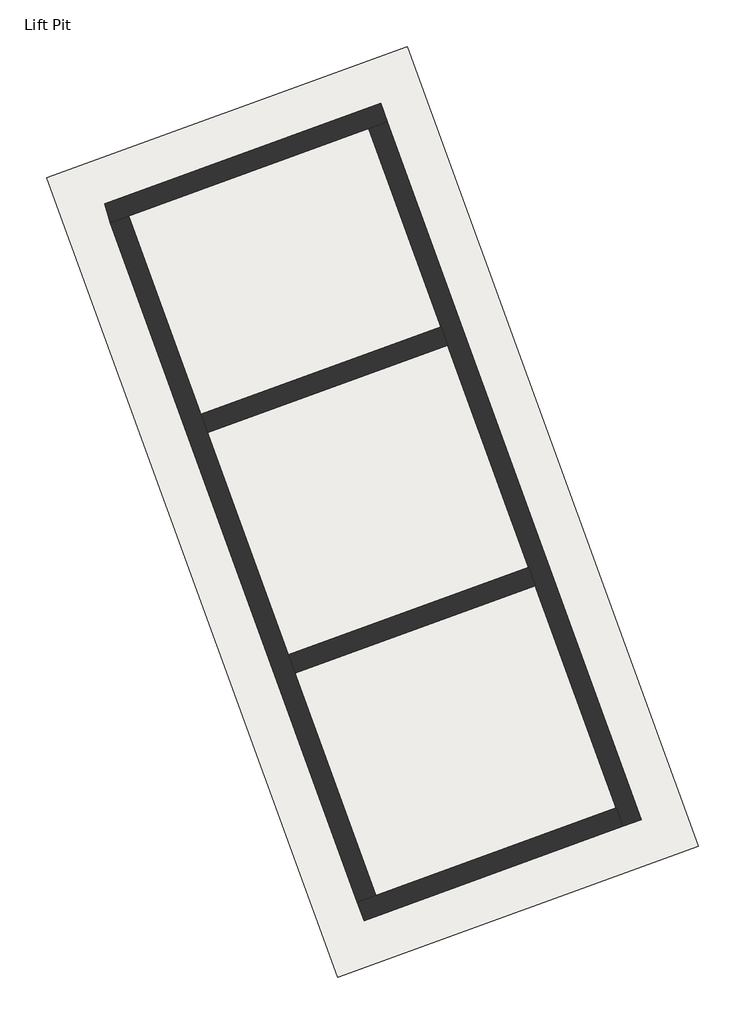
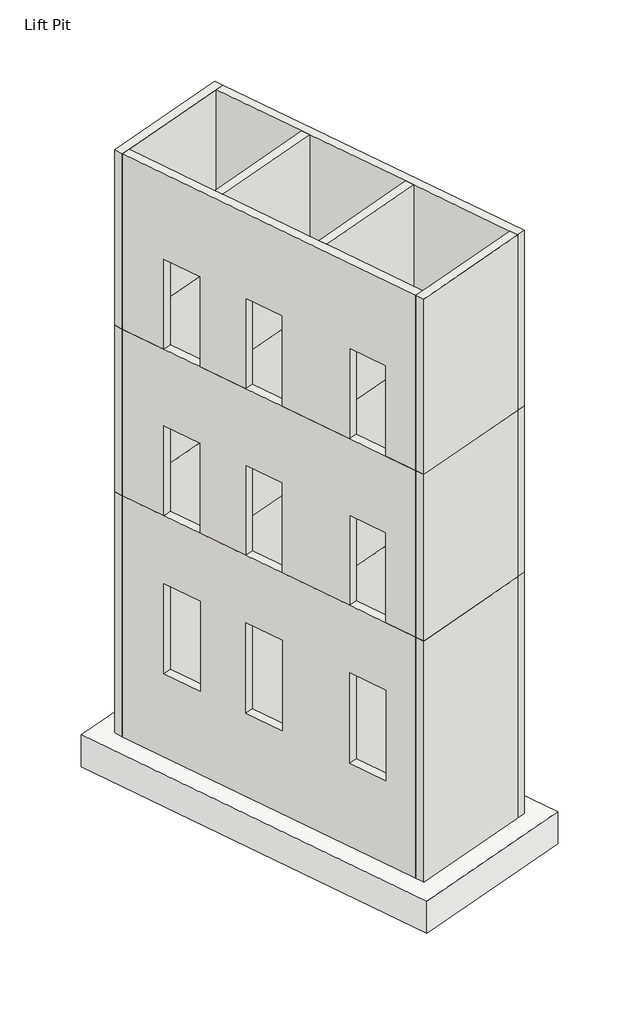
# One storey: 6 walls, 1 slab.
"""IFC4 building model written with IfcOpenShell, lengths in millimetres."""

from ifc_helpers import new_model, si_unit, frame, origin, place, context, project, spatial, polyline, outline, extrude, faceted_brep, element, save

model = new_model("IFC4")

# Units and contexts
model_context = context("Model", 3, world=origin())
ifc_project = project(units=[si_unit("LENGTHUNIT", "METRE", prefix="MILLI")], contexts=[model_context])

# Site, building, storey
site = spatial("IfcSite", under=ifc_project)
building = spatial("IfcBuilding", under=site)
storey = spatial("IfcBuildingStorey", under=building, Name="Lift Pit", Elevation=-1950.0)

# Slab
placement = place(None, origin())
element("IfcSlab", 1, ObjectType="750 RC SLAB", at=placement, inside=storey, context=model_context, shape_type="SweptSolid", body=[
    extrude(outline(polyline([(38224.7247183, 10390.2706294), (41182.0702914, 2265.0304453), (37517.2690702, 931.1518864), (34559.9234972, 9056.3920706), (38224.7247183, 10390.2706294)])), frame((0.0, 0.0, -2700.0), z_axis=(0.0, 0.0, 1.0), x_axis=(1.0, 0.0, 0.0)), (0.0, 0.0, 1.0), 750.0),
])

# Walls
element("IfcWall", 2, ObjectType="RC WALL 200", at=placement, inside=storey, context=model_context, shape_type="SolidModel", body=[
    faceted_brep([(38024.1761321, 9625.5613614, 7595.0), (35205.0982701, 8599.5009317, 7595.0), (35153.1367317, 8793.4240329, 7595.0), (37955.7721034, 9813.4998856, 7595.0), (38024.1761321, 9625.5613614, 11700.0), (37836.2376079, 9557.1573328, 11700.0), (35393.0367939, 8667.9049602, 11700.0), (35205.0982701, 8599.5009317, 11700.0), (37955.7721034, 9813.4998856, 11700.0), (35153.1367317, 8793.4240329, 11700.0)], [[[0, 1, 2, 3]], [[0, 4, 5, 6, 7, 1]], [[3, 8, 4, 0]], [[5, 4, 8, 9, 7, 6]], [[1, 7, 9, 2]], [[2, 9, 8, 3]]]),
    faceted_brep([(35205.0982701, 8599.5009317, 3695.0), (38024.1761321, 9625.5613614, 3695.0), (37955.7721034, 9813.4998856, 3695.0), (35153.1367317, 8793.4240329, 3695.0), (35205.0982701, 8599.5009317, -1950.0), (35393.0367939, 8667.9049602, -1950.0), (37836.2376079, 9557.1573328, -1950.0), (38024.1761321, 9625.5613614, -1950.0), (38024.1761321, 9625.5613614, -450.0), (35205.0982701, 8599.5009317, -450.0), (35153.1367317, 8793.4240329, -1950.0), (37955.7721034, 9813.4998856, -1950.0), (37955.7721034, 9813.4998856, -450.0), (35153.1367317, 8793.4240329, -450.0)], [[[0, 1, 2, 3]], [[4, 5, 6, 7, 8, 1, 0, 9]], [[5, 4, 10, 11, 7, 6]], [[8, 7, 11, 12, 2, 1]], [[4, 9, 0, 3, 13, 10]], [[10, 13, 3, 2, 12, 11]]]),
    extrude(outline(polyline([(38024.1761321, 9625.5613614), (35205.0982701, 8599.5009317), (35153.1367317, 8793.4240329), (37955.7721034, 9813.4998856), (38024.1761321, 9625.5613614)])), frame((0.0, 0.0, 3695.0), z_axis=(0.0, 0.0, 1.0), x_axis=(1.0, 0.0, 0.0)), (0.0, 0.0, 1.0), 3900.0),
])
element("IfcWall", 3, ObjectType="RC WALL 200", at=placement, inside=storey, context=model_context, shape_type="SolidModel", body=[
    faceted_brep([(40417.3610234, 2465.5790315, 7595.0), (37836.2376079, 9557.1573328, 7595.0), (38024.1761321, 9625.5613614, 7595.0), (40605.2995475, 2533.9830601, 7595.0), (40417.3610234, 2465.5790315, 11700.0), (40348.9569947, 2653.5175556, 11700.0), (39527.6685354, 4909.9890526, 11700.0), (39459.2645067, 5097.9275768, 11700.0), (38638.4161628, 7353.1898667, 11700.0), (38570.0121342, 7541.1283909, 11700.0), (37836.2376079, 9557.1573328, 11700.0), (40605.2995475, 2533.9830601, 11700.0), (38024.1761321, 9625.5613614, 11700.0)], [[[0, 1, 2, 3]], [[0, 4, 5, 6, 7, 8, 9, 10, 1]], [[4, 0, 3, 11]], [[5, 4, 11, 12, 10, 9, 8, 7, 6]], [[1, 10, 12, 2]], [[2, 12, 11, 3]]]),
    faceted_brep([(37836.2376079, 9557.1573328, 3695.0), (40417.3610234, 2465.5790315, 3695.0), (40605.2995475, 2533.9830601, 3695.0), (38024.1761321, 9625.5613614, 3695.0), (37836.2376079, 9557.1573328, -1950.0), (38570.0121342, 7541.1283909, -1950.0), (38638.4161628, 7353.1898667, -1950.0), (39459.2645067, 5097.9275768, -1950.0), (39527.6685354, 4909.9890526, -1950.0), (40348.9569947, 2653.5175556, -1950.0), (40417.3610234, 2465.5790315, -1950.0), (38024.1761321, 9625.5613614, -1950.0), (40605.2995475, 2533.9830601, -1950.0)], [[[0, 1, 2, 3]], [[4, 5, 6, 7, 8, 9, 10, 1, 0]], [[5, 4, 11, 12, 10, 9, 8, 7, 6]], [[1, 10, 12, 2]], [[4, 0, 3, 11]], [[11, 3, 2, 12]]]),
    extrude(outline(polyline([(40417.3610234, 2465.5790315), (37836.2376079, 9557.1573328), (38024.1761321, 9625.5613614), (40605.2995475, 2533.9830601), (40417.3610234, 2465.5790315)])), frame((0.0, 0.0, 3695.0), z_axis=(0.0, 0.0, 1.0), x_axis=(1.0, 0.0, 0.0)), (0.0, 0.0, 1.0), 3900.0),
])
element("IfcWall", 4, ObjectType="RC WALL 200", at=placement, inside=storey, context=model_context, shape_type="SolidModel", body=[
    faceted_brep([(37717.8176565, 1695.8611544, 7595.0), (40348.9569947, 2653.5175556, 7595.0), (40417.3610234, 2465.5790315, 7595.0), (37786.2216851, 1507.9226302, 7595.0), (37717.8176565, 1695.8611544, 11700.0), (37905.7561806, 1764.2651831, 11700.0), (40348.9569947, 2653.5175556, 11700.0), (37786.2216851, 1507.9226302, 11700.0), (40417.3610234, 2465.5790315, 11700.0)], [[[0, 1, 2, 3]], [[0, 4, 5, 6, 1]], [[4, 0, 3, 7]], [[5, 4, 7, 8, 6]], [[1, 6, 8, 2]], [[2, 8, 7, 3]]]),
    faceted_brep([(40348.9569947, 2653.5175556, 3695.0), (37717.8176565, 1695.8611544, 3695.0), (37786.2216851, 1507.9226302, 3695.0), (40417.3610234, 2465.5790315, 3695.0), (40348.9569947, 2653.5175556, -1950.0), (37905.7561806, 1764.2651831, -1950.0), (37717.8176565, 1695.8611544, -1950.0), (40417.3610234, 2465.5790315, -1950.0), (37786.2216851, 1507.9226302, -1950.0)], [[[0, 1, 2, 3]], [[4, 5, 6, 1, 0]], [[5, 4, 7, 8, 6]], [[1, 6, 8, 2]], [[4, 0, 3, 7]], [[7, 3, 2, 8]]]),
    extrude(outline(polyline([(37717.8176565, 1695.8611544), (40348.9569947, 2653.5175556), (40417.3610234, 2465.5790315), (37786.2216851, 1507.9226302), (37717.8176565, 1695.8611544)])), frame((0.0, 0.0, 3695.0), z_axis=(0.0, 0.0, 1.0), x_axis=(1.0, 0.0, 0.0)), (0.0, 0.0, 1.0), 3900.0),
])
element("IfcWall", 5, ObjectType="RC WALL 200", at=placement, inside=storey, context=model_context, shape_type="Brep", body=[
    faceted_brep([(37648.4224802, 2471.2837143, 7595.0), (37905.7561806, 1764.2651831, 7595.0), (37717.8176565, 1695.8611544, 7595.0), (37460.483956, 2402.8796856, 7595.0), (36058.4072915, 6839.8145422, 7595.0), (36448.3102548, 5768.5649548, 7595.0), (36260.3717306, 5700.1609261, 7595.0), (35870.4687673, 6771.4105136, 7595.0), (35393.0367939, 8667.9049602, 7595.0), (35747.1689611, 7694.9348271, 7595.0), (35559.2304369, 7626.5307985, 7595.0), (35205.0982697, 8599.5009315, 7595.0), (36759.5485852, 4913.4446698, 7595.0), (37337.1841498, 3326.4039992, 7595.0), (37149.2456256, 3257.9999705, 7595.0), (36571.610061, 4845.0406412, 7595.0), (35393.0367939, 8667.9049602, 11700.0), (36126.8113201, 6651.8760183, 11700.0), (36195.2153487, 6463.9374941, 11700.0), (37016.0636927, 4208.6752042, 11700.0), (37084.4677213, 4020.73668, 11700.0), (37905.7561806, 1764.2651831, 11700.0), (37648.4224802, 2471.2837143, 9705.0), (37337.1841498, 3326.4039992, 9705.0), (36759.5485852, 4913.4446698, 9705.0), (36448.3102548, 5768.5649548, 9705.0), (36058.4072915, 6839.8145422, 9705.0), (35747.1689611, 7694.9348271, 9705.0), (35205.0982697, 8599.5009315, 11700.0), (37717.8176565, 1695.8611544, 11700.0), (37460.483956, 2402.8796856, 9705.0), (37149.2456256, 3257.9999705, 9705.0), (36571.610061, 4845.0406412, 9705.0), (36260.3717306, 5700.1609261, 9705.0), (35870.4687673, 6771.4105136, 9705.0), (35559.2304369, 7626.5307985, 9705.0)], [[[0, 1, 2, 3]], [[4, 5, 6, 7]], [[8, 9, 10, 11]], [[12, 13, 14, 15]], [[8, 16, 17, 18, 19, 20, 21, 1, 0, 22, 23, 13, 12, 24, 25, 5, 4, 26, 27, 9]], [[11, 28, 16, 8]], [[17, 16, 28, 29, 21, 20, 19, 18]], [[1, 21, 29, 2]], [[23, 22, 30, 31]], [[13, 23, 31, 14]], [[22, 0, 3, 30]], [[25, 24, 32, 33]], [[5, 25, 33, 6]], [[24, 12, 15, 32]], [[27, 26, 34, 35]], [[9, 27, 35, 10]], [[26, 4, 7, 34]], [[2, 29, 28, 11, 10, 35, 34, 7, 6, 33, 32, 15, 14, 31, 30, 3]]]),
    faceted_brep([(37905.7561806, 1764.2651831, 3695.0), (37648.4224802, 2471.2837143, 3695.0), (37337.1841498, 3326.4039992, 3695.0), (36759.5485852, 4913.4446698, 3695.0), (36448.3102548, 5768.5649548, 3695.0), (36058.4072915, 6839.8145422, 3695.0), (35747.1689611, 7694.9348271, 3695.0), (35393.0367939, 8667.9049602, 3695.0), (35205.0982697, 8599.5009315, 3695.0), (35559.2304369, 7626.5307985, 3695.0), (35870.4687673, 6771.4105136, 3695.0), (36260.3717306, 5700.1609261, 3695.0), (36571.610061, 4845.0406412, 3695.0), (37149.2456256, 3257.9999705, 3695.0), (37460.483956, 2402.8796856, 3695.0), (37717.8176565, 1695.8611544, 3695.0), (37905.7561806, 1764.2651831, -1950.0), (37084.4677213, 4020.73668, -1950.0), (37016.0636927, 4208.6752042, -1950.0), (36195.2153487, 6463.9374941, -1950.0), (36126.8113201, 6651.8760183, -1950.0), (35393.0367939, 8667.9049602, -1950.0), (35393.0367939, 8667.9049602, -450.0), (37905.7561806, 1764.2651831, -450.0), (36058.4072915, 6839.8145422, 2110.0), (35747.1689611, 7694.9348271, 2110.0), (35747.1689611, 7694.9348271, 0.0), (36058.4072915, 6839.8145422, 0.0), (36759.5485852, 4913.4446698, 2110.0), (36448.3102548, 5768.5649548, 2110.0), (36448.3102548, 5768.5649548, 0.0), (36759.5485852, 4913.4446698, 0.0), (37648.4224802, 2471.2837143, 2110.0), (37337.1841498, 3326.4039992, 2110.0), (37337.1841498, 3326.4039992, 0.0), (37648.4224802, 2471.2837143, 0.0), (35870.4687673, 6771.4105136, 2110.0), (35559.2304369, 7626.5307985, 2110.0), (35559.2304369, 7626.5307985, 0.0), (35870.4687673, 6771.4105136, 0.0), (36571.610061, 4845.0406412, 2110.0), (36260.3717306, 5700.1609261, 2110.0), (36260.3717306, 5700.1609261, 0.0), (36571.610061, 4845.0406412, 0.0), (37460.483956, 2402.8796856, 2110.0), (37149.2456256, 3257.9999705, 2110.0), (37149.2456256, 3257.9999705, 0.0), (37460.483956, 2402.8796856, 0.0), (37717.8176565, 1695.8611544, -1950.0), (35205.0982697, 8599.5009315, -1950.0), (35205.0982697, 8599.5009315, -450.0), (37717.8176565, 1695.8611544, -450.0)], [[[0, 1, 2, 3, 4, 5, 6, 7, 8, 9, 10, 11, 12, 13, 14, 15]], [[16, 17, 18, 19, 20, 21, 22, 7, 6, 5, 4, 3, 2, 1, 0, 23], [24, 25, 26, 27], [28, 29, 30, 31], [32, 33, 34, 35]], [[25, 24, 36, 37]], [[26, 25, 37, 38]], [[27, 26, 38, 39]], [[24, 27, 39, 36]], [[29, 28, 40, 41]], [[30, 29, 41, 42]], [[31, 30, 42, 43]], [[28, 31, 43, 40]], [[33, 32, 44, 45]], [[34, 33, 45, 46]], [[35, 34, 46, 47]], [[32, 35, 47, 44]], [[17, 16, 48, 49, 21, 20, 19, 18]], [[22, 21, 49, 50, 8, 7]], [[16, 23, 0, 15, 51, 48]], [[48, 51, 15, 14, 13, 12, 11, 10, 9, 8, 50, 49], [37, 36, 39, 38], [41, 40, 43, 42], [45, 44, 47, 46]]]),
    faceted_brep([(37905.7561806, 1764.2651831, 7595.0), (37648.4224802, 2471.2837143, 7595.0), (37337.1841498, 3326.4039992, 7595.0), (36759.5485852, 4913.4446698, 7595.0), (36448.3102548, 5768.5649548, 7595.0), (36058.4072915, 6839.8145422, 7595.0), (35747.1689611, 7694.9348271, 7595.0), (35393.0367939, 8667.9049602, 7595.0), (35205.0982697, 8599.5009315, 7595.0), (35559.2304369, 7626.5307985, 7595.0), (35870.4687673, 6771.4105136, 7595.0), (36260.3717306, 5700.1609261, 7595.0), (36571.610061, 4845.0406412, 7595.0), (37149.2456256, 3257.9999705, 7595.0), (37460.483956, 2402.8796856, 7595.0), (37717.8176565, 1695.8611544, 7595.0), (37648.4224802, 2471.2837143, 3695.0), (37905.7561806, 1764.2651831, 3695.0), (37717.8176565, 1695.8611544, 3695.0), (37460.483956, 2402.8796856, 3695.0), (36759.5485852, 4913.4446698, 3695.0), (37337.1841498, 3326.4039992, 3695.0), (37149.2456256, 3257.9999705, 3695.0), (36571.610061, 4845.0406412, 3695.0), (35393.0367939, 8667.9049602, 3695.0), (35747.1689611, 7694.9348271, 3695.0), (35559.2304369, 7626.5307985, 3695.0), (35205.0982697, 8599.5009315, 3695.0), (36058.4072915, 6839.8145422, 3695.0), (36448.3102548, 5768.5649548, 3695.0), (36260.3717306, 5700.1609261, 3695.0), (35870.4687673, 6771.4105136, 3695.0), (37648.4224802, 2471.2837143, 5805.0), (37337.1841498, 3326.4039992, 5805.0), (36759.5485852, 4913.4446698, 5805.0), (36448.3102548, 5768.5649548, 5805.0), (36058.4072915, 6839.8145422, 5805.0), (35747.1689611, 7694.9348271, 5805.0), (35559.2304369, 7626.5307985, 5805.0), (35870.4687673, 6771.4105136, 5805.0), (36260.3717306, 5700.1609261, 5805.0), (36571.610061, 4845.0406412, 5805.0), (37149.2456256, 3257.9999705, 5805.0), (37460.483956, 2402.8796856, 5805.0)], [[[0, 1, 2, 3, 4, 5, 6, 7, 8, 9, 10, 11, 12, 13, 14, 15]], [[16, 17, 18, 19]], [[20, 21, 22, 23]], [[24, 25, 26, 27]], [[28, 29, 30, 31]], [[32, 33, 21, 20, 34, 35, 29, 28, 36, 37, 25, 24, 7, 6, 5, 4, 3, 2, 1, 0, 17, 16]], [[25, 37, 38, 26]], [[18, 15, 14, 13, 12, 11, 10, 9, 8, 27, 26, 38, 39, 31, 30, 40, 41, 23, 22, 42, 43, 19]], [[27, 8, 7, 24]], [[33, 32, 43, 42]], [[21, 33, 42, 22]], [[34, 20, 23, 41]], [[35, 34, 41, 40]], [[29, 35, 40, 30]], [[36, 28, 31, 39]], [[37, 36, 39, 38]], [[17, 0, 15, 18]], [[32, 16, 19, 43]]]),
])
element("IfcWall", 6, ObjectType="RC WALL 200", at=placement, inside=storey, context=model_context, shape_type="SweptSolid", body=[
    extrude(outline(polyline([(38638.4161628, 7353.1898667), (36195.2153487, 6463.9374941), (36126.8113201, 6651.8760183), (38570.0121342, 7541.1283909), (38638.4161628, 7353.1898667)])), frame((0.0, 0.0, 7595.0), z_axis=(0.0, 0.0, 1.0), x_axis=(1.0, 0.0, 0.0)), (0.0, 0.0, 1.0), 4105.0),
    extrude(outline(polyline([(38638.4161628, 7353.1898667), (36195.2153487, 6463.9374941), (36126.8113201, 6651.8760183), (38570.0121342, 7541.1283909), (38638.4161628, 7353.1898667)])), frame((0.0, 0.0, -1950.0), z_axis=(0.0, 0.0, 1.0), x_axis=(1.0, 0.0, 0.0)), (0.0, 0.0, 1.0), 5645.0),
    extrude(outline(polyline([(38638.4161628, 7353.1898667), (36195.2153487, 6463.9374941), (36126.8113201, 6651.8760183), (38570.0121342, 7541.1283909), (38638.4161628, 7353.1898667)])), frame((0.0, 0.0, 3695.0), z_axis=(0.0, 0.0, 1.0), x_axis=(1.0, 0.0, 0.0)), (0.0, 0.0, 1.0), 3900.0),
])
element("IfcWall", 7, ObjectType="RC WALL 200", at=placement, inside=storey, context=model_context, shape_type="SweptSolid", body=[
    extrude(outline(polyline([(39527.6685354, 4909.9890526), (37084.4677213, 4020.73668), (37016.0636927, 4208.6752042), (39459.2645067, 5097.9275768), (39527.6685354, 4909.9890526)])), frame((0.0, 0.0, 7595.0), z_axis=(0.0, 0.0, 1.0), x_axis=(1.0, 0.0, 0.0)), (0.0, 0.0, 1.0), 4105.0),
    extrude(outline(polyline([(39527.6685354, 4909.9890526), (37084.4677213, 4020.73668), (37016.0636927, 4208.6752042), (39459.2645067, 5097.9275768), (39527.6685354, 4909.9890526)])), frame((0.0, 0.0, -1950.0), z_axis=(0.0, 0.0, 1.0), x_axis=(1.0, 0.0, 0.0)), (0.0, 0.0, 1.0), 5645.0),
    extrude(outline(polyline([(39527.6685354, 4909.9890526), (37084.4677213, 4020.73668), (37016.0636927, 4208.6752042), (39459.2645067, 5097.9275768), (39527.6685354, 4909.9890526)])), frame((0.0, 0.0, 3695.0), z_axis=(0.0, 0.0, 1.0), x_axis=(1.0, 0.0, 0.0)), (0.0, 0.0, 1.0), 3900.0),
])

save(model, "model.ifc")
